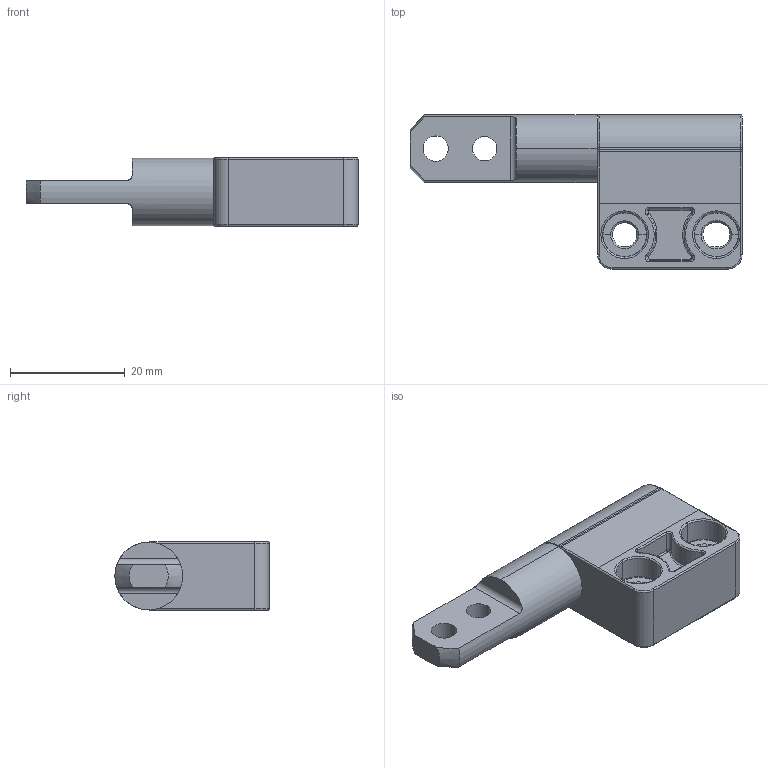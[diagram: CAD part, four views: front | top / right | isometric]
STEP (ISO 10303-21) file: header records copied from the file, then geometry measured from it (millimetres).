
FILE_DESCRIPTION (( 'STEP AP214' ), '1' );
FILE_NAME ('Reell RT-120-XX-02.STEP', '2015-09-10T12:50:58', ( 'USER' ), ( '' ), 'SwSTEP 2.0', 'SolidWorks 2015', '' );
FILE_SCHEMA (( 'AUTOMOTIVE_DESIGN' ));
Length unit declared in the file: millimetre
Products named in the file (3): Reell RT-120-XX-02; RT120 Join, Straight Shaft End; RT120 Join, Center2
Assembly tree (2 placements, depth 2):
  Reell RT-120-XX-02
    RT120 Join, Straight Shaft End
    RT120 Join, Center2
Bounding box: 57.85 x 26.9 x 12 mm (x, y, z)
Volume: 9352.4 mm3; surface area: 4916.6 mm2
Topology: 2 solids, 2 shells, 291 faces, 719 edges, 448 vertices
Faces by surface type: plane 112, cylinder 60, torus 58, bspline 45, cone 16
Entity records: 10967 total; most frequent: CARTESIAN_POINT 4084, ORIENTED_EDGE 1438, DIRECTION 1373, EDGE_CURVE 719, AXIS2_PLACEMENT_3D 501, VERTEX_POINT 448, VECTOR 371, LINE 371
